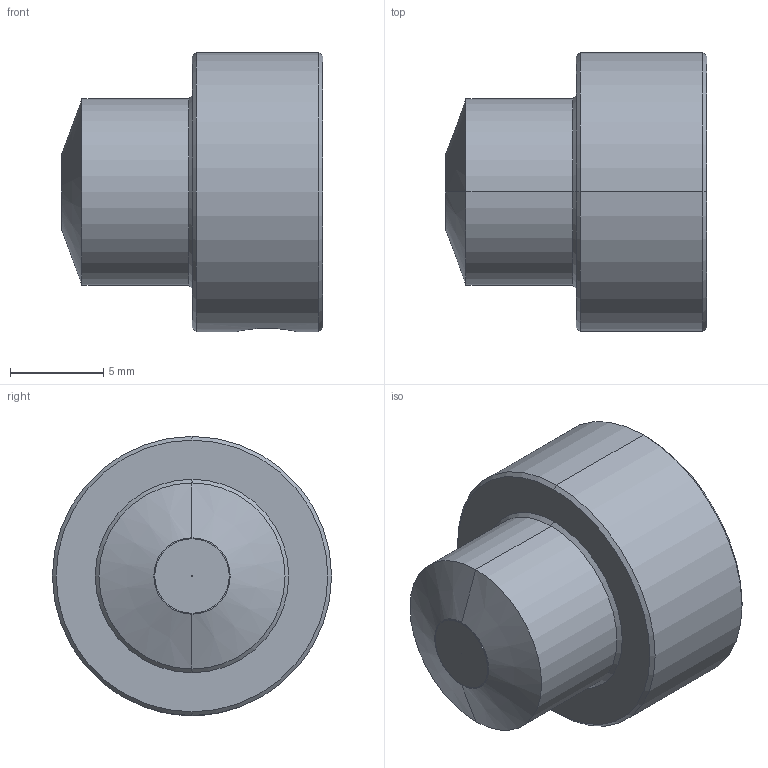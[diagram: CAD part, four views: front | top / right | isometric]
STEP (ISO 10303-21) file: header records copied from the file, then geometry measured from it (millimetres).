
FILE_DESCRIPTION (( 'STEP AP203' ), '1' );
FILE_NAME ('rma-shaft1_4inch.step', '2006-09-05T13:02:32', ( 'RLS' ), ( '' ), 'SwSTEP 1.0', 'SolidWorks 1999313', '' );
FILE_SCHEMA (( 'CONFIG_CONTROL_DESIGN' ));
Length unit declared in the file: metre
Products named in the file (1): 1
Bounding box: 14.03 x 15 x 15 mm (x, y, z)
Volume: 1545.6 mm3; surface area: 1009.9 mm2
Topology: 1 solids, 1 shells, 59 faces, 123 edges, 72 vertices
Faces by surface type: plane 27, cylinder 16, cone 14, bspline 2
Entity records: 1727 total; most frequent: CARTESIAN_POINT 413, DIRECTION 277, ORIENTED_EDGE 246, EDGE_CURVE 123, AXIS2_PLACEMENT_3D 102, LINE 73, VECTOR 73, VERTEX_POINT 72
